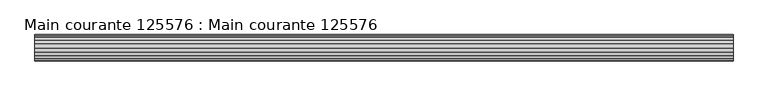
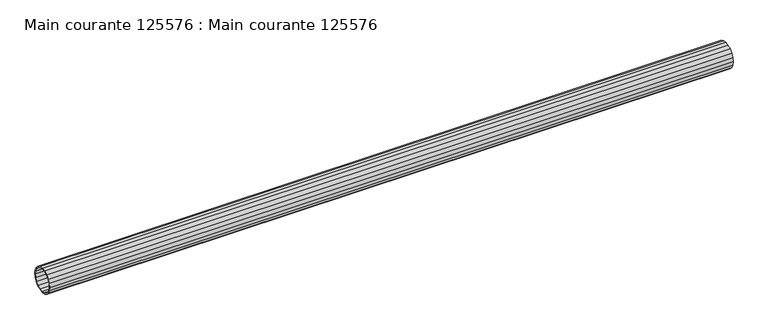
"""IFC4 building model written with IfcOpenShell, lengths in millimetres: beam geometry, Main courante 125576 : Main courante 125576."""

import ifcopenshell
import ifcopenshell.guid

model = None  # the IFC model being written
_history = None  # IfcOwnerHistory: only IFC2X3 demands one
_inside = {}  # id of a spatial element -> (the spatial element, [elements in it])
_under = {}  # id of a project, library or spatial element -> (it, [spatial elements below it])
_declared = {}  # id of a project -> (the project, [libraries it declares])
_typed = {}  # id of a type object -> (the type object, [elements of that type])
_made_of = {}  # id of a material, layer set ... -> (it, [elements and type objects made of it])


def new_model(schema):
    """Start an empty IFC model of exactly this schema.

    Asked for "IFC4X3", IfcOpenShell would pick the latest addendum, in which some entities
    have other attributes; the version numbers below select the first issue.
    IFC2X3 requires an IfcOwnerHistory on every rooted entity: one is made here for all.
    """
    global model, _history
    if schema == "IFC4X3":
        model = ifcopenshell.file(schema_version=(4, 3, 0, 0))
    else:
        model = ifcopenshell.file(schema=schema)
    _inside.clear()
    _under.clear()
    _declared.clear()
    _typed.clear()
    _made_of.clear()
    _history = None
    if model.schema == "IFC2X3":
        org = make("IfcOrganization", Name="unknown")
        user = make(
            "IfcPersonAndOrganization",
            ThePerson=make("IfcPerson", FamilyName="unknown"),
            TheOrganization=org,
        )
        app = make(
            "IfcApplication",
            ApplicationDeveloper=org,
            Version="unknown",
            ApplicationFullName="unknown",
            ApplicationIdentifier="unknown",
        )
        _history = make(
            "IfcOwnerHistory",
            OwningUser=user,
            OwningApplication=app,
            ChangeAction="ADDED",
            CreationDate=0,
        )
    return model


def make(cls, **values):
    """One entity of the class cls with the attributes given. An attribute that is None is left unset."""
    return model.create_entity(
        cls, **{name: value for name, value in values.items() if value is not None}
    )


def rooted(cls, **values):
    """An entity with a GlobalId (a new one), such as an element, a storey or a relation."""
    return make(cls, GlobalId=ifcopenshell.guid.new(), OwnerHistory=_history, **values)


def si_unit(unit_type, name, prefix=None):
    """IfcSIUnit, for example si_unit("LENGTHUNIT", "METRE", prefix="MILLI")."""
    return make("IfcSIUnit", UnitType=unit_type, Prefix=prefix, Name=name)


def assignment(units):
    """IfcUnitAssignment: the units of a project."""
    return None if units is None else make("IfcUnitAssignment", Units=units)


def point(xyz):
    """IfcCartesianPoint."""
    return None if xyz is None else make("IfcCartesianPoint", Coordinates=xyz)


def direction(xyz):
    """IfcDirection."""
    return None if xyz is None else make("IfcDirection", DirectionRatios=xyz)


def frame(location, z_axis=None, x_axis=None):
    """IfcAxis2Placement3D, a coordinate frame: its origin and axes. An axis left out is left unset."""
    return make(
        "IfcAxis2Placement3D",
        Location=point(location),
        Axis=direction(z_axis),
        RefDirection=direction(x_axis),
    )


def origin():
    """The frame at (0, 0, 0) with its axes left unset."""
    return frame((0.0, 0.0, 0.0))


def place(relative_to, where):
    """IfcLocalPlacement: puts the frame where relative to a parent placement (None: the world)."""
    return make(
        "IfcLocalPlacement", PlacementRelTo=relative_to, RelativePlacement=where
    )


def context(
    kind, dimensions, precision=None, world=None, true_north=None, identifier=None
):
    """IfcGeometricRepresentationContext, for example the 3D "Model" context."""
    return make(
        "IfcGeometricRepresentationContext",
        ContextIdentifier=identifier,
        ContextType=kind,
        CoordinateSpaceDimension=dimensions,
        Precision=precision,
        WorldCoordinateSystem=world,
        TrueNorth=true_north,
    )


def project(units=None, contexts=None):
    """IfcProject with its units and contexts."""
    return rooted(
        "IfcProject",
        Name="project",
        RepresentationContexts=contexts,
        UnitsInContext=assignment(units),
    )


def spatial(cls, under=None, at=None, **own):
    """A site, building, storey or space (cls), placed at a placement, below another one or the project."""
    s = rooted(cls, ObjectPlacement=at, **own)
    if under is not None:
        _under.setdefault(under.id(), (under, []))[1].append(s)
    return s


def polyline(points):
    """IfcPolyline through the points."""
    return make("IfcPolyline", Points=[point(p) for p in points])


def outline(outer, holes=None, kind="AREA"):
    """IfcArbitraryClosedProfileDef: a profile drawn as a closed curve; with holes, ...WithVoids."""
    if holes is None:
        return make("IfcArbitraryClosedProfileDef", ProfileType=kind, OuterCurve=outer)
    return make(
        "IfcArbitraryProfileDefWithVoids",
        ProfileType=kind,
        OuterCurve=outer,
        InnerCurves=holes,
    )


def extrude(swept, where, along, depth):
    """IfcExtrudedAreaSolid: the profile swept, set in the frame where, extruded along a direction by depth."""
    return make(
        "IfcExtrudedAreaSolid",
        SweptArea=swept,
        Position=where,
        ExtrudedDirection=direction(along),
        Depth=depth,
    )


def shape(context_of_items, identifier, shape_type, items):
    """IfcShapeRepresentation: the items that make up one representation, for example the "Body"."""
    return make(
        "IfcShapeRepresentation",
        ContextOfItems=context_of_items,
        RepresentationIdentifier=identifier,
        RepresentationType=shape_type,
        Items=items,
    )


def source(mapping_origin, context_of_items, identifier, shape_type, items):
    """IfcRepresentationMap: a shape defined once, which mapped items show again and again."""
    return make(
        "IfcRepresentationMap",
        MappingOrigin=mapping_origin,
        MappedRepresentation=shape(context_of_items, identifier, shape_type, items),
    )


def transform(
    local_origin,
    x_axis=None,
    y_axis=None,
    z_axis=None,
    scale=None,
    scale2=None,
    scale3=None,
    uniform=True,
):
    """IfcCartesianTransformationOperator3D, or its non-uniform kind. x_axis, y_axis, z_axis: its Axis1, 2, 3."""
    if uniform:
        return make(
            "IfcCartesianTransformationOperator3D",
            Axis1=direction(x_axis),
            Axis2=direction(y_axis),
            LocalOrigin=point(local_origin),
            Scale=scale,
            Axis3=direction(z_axis),
        )
    return make(
        "IfcCartesianTransformationOperator3DnonUniform",
        Axis1=direction(x_axis),
        Axis2=direction(y_axis),
        LocalOrigin=point(local_origin),
        Scale=scale,
        Axis3=direction(z_axis),
        Scale2=scale2,
        Scale3=scale3,
    )


def mapped(mapping_source, mapping_target):
    """IfcMappedItem: shows the shape of a source again, moved by a transform."""
    return make(
        "IfcMappedItem", MappingSource=mapping_source, MappingTarget=mapping_target
    )


def made_of(thing, what):
    """Note that an element or type object is made of a material, layer set ...; save() writes the relation."""
    if what is not None:
        _made_of.setdefault(what.id(), (what, []))[1].append(thing)
    return thing


def element(
    cls,
    number,
    at=None,
    inside=None,
    cuts=None,
    type_object=None,
    material=None,
    context=None,
    identifier="Body",
    shape_type=None,
    held_by="IfcProductDefinitionShape",
    body=None,
    shapes=None,
    **own,
):
    """One element of the class cls, such as IfcWall. Its Tag is "e" and its number.

    at: its placement. inside: the storey or other place that contains it. cuts: it is an
    opening in that element (IfcRelVoidsElement). A single representation is given by context,
    identifier, shape_type and body (its items); several are given by shapes. held_by: the class
    of the entity that holds the representations. save() writes the other relations.
    """
    e = rooted(cls, Tag="e%d" % number, ObjectPlacement=at, **own)
    if body is not None:
        shapes = [shape(context, identifier, shape_type, body)]
    if shapes is not None:
        e.Representation = make(held_by, Representations=shapes)
    if inside is not None:
        _inside.setdefault(inside.id(), (inside, []))[1].append(e)
    if cuts is not None:
        rooted(
            "IfcRelVoidsElement", RelatingBuildingElement=cuts, RelatedOpeningElement=e
        )
    if type_object is not None:
        _typed.setdefault(type_object.id(), (type_object, []))[1].append(e)
    return made_of(e, material)


def aggregate(whole, parts):
    """IfcRelAggregates: a whole, such as a stair, and the parts it consists of."""
    return rooted("IfcRelAggregates", RelatingObject=whole, RelatedObjects=parts)


def save(model, path):
    """Write the relations noted so far, then the file.

    IfcRelAggregates (storeys below a building ...), IfcRelContainedInSpatialStructure (elements
    in a storey), IfcRelDefinesByType, IfcRelAssociatesMaterial and IfcRelDeclares: one each for
    every whole, place, type object, material and project.
    """
    for whole, parts in _under.values():
        aggregate(whole, parts)
    for where, things in _inside.values():
        rooted(
            "IfcRelContainedInSpatialStructure",
            RelatedElements=things,
            RelatingStructure=where,
        )
    for kind, things in _typed.values():
        rooted("IfcRelDefinesByType", RelatedObjects=things, RelatingType=kind)
    for what, things in _made_of.values():
        rooted("IfcRelAssociatesMaterial", RelatedObjects=things, RelatingMaterial=what)
    for by, libraries in _declared.values():
        rooted("IfcRelDeclares", RelatingContext=by, RelatedDefinitions=libraries)
    model.write(path)


def main_courante_125576_main_courante_125576_99327f67(model_context):
    return source(origin(), model_context, "Body", "SweptSolid", [
        extrude(outline(polyline([(-14166.5, 8765.0), (-14165.3180149, 8772.4627604), (-14161.8877604, 8779.1950138), (-14156.5450138, 8784.5377604), (-14149.8127604, 8787.9680149), (-14142.35, 8789.15), (-14134.8872396, 8787.9680149), (-14128.1549862, 8784.5377604), (-14122.8122396, 8779.1950138), (-14119.3819851, 8772.4627604), (-14118.2, 8765.0), (-14119.3819851, 8757.5372396), (-14122.8122396, 8750.8049862), (-14128.1549862, 8745.4622396), (-14134.8872396, 8742.0319851), (-14142.35, 8740.85), (-14149.8127604, 8742.0319851), (-14156.5450138, 8745.4622396), (-14161.8877604, 8750.8049862), (-14165.3180149, 8757.5372396), (-14166.5, 8765.0)]), holes=[polyline([(-14120.7, 8765.0), (-14121.7596264, 8771.6902179), (-14124.8347821, 8777.7255507), (-14129.6244493, 8782.5152179), (-14135.6597821, 8785.5903736), (-14142.35, 8786.65), (-14149.0402179, 8785.5903736), (-14155.0755507, 8782.5152179), (-14159.8652179, 8777.7255507), (-14162.9403736, 8771.6902179), (-14164.0, 8765.0), (-14162.9403736, 8758.3097821), (-14159.8652179, 8752.2744493), (-14155.0755507, 8747.4847821), (-14149.0402179, 8744.4096264), (-14142.35, 8743.35), (-14135.6597821, 8744.4096264), (-14129.6244493, 8747.4847821), (-14124.8347821, 8752.2744493), (-14121.7596264, 8758.3097821), (-14120.7, 8765.0)])]), frame((12800.9999999, 0.0, 0.0), z_axis=(1.0, 0.0, 0.0), x_axis=(0.0, 1.0, 0.0)), (0.0, 0.0, 1.0), 1285.5),
    ])


if __name__ == "__main__":
    model = new_model("IFC4")
    model_context = context("Model", 3, world=origin())
    ifc_project = project(units=[si_unit("LENGTHUNIT", "METRE", prefix="MILLI")], contexts=[model_context])
    site = spatial("IfcSite", under=ifc_project)
    building = spatial("IfcBuilding", under=site)
    placement = place(None, origin())
    main_courante_125576_main_courante_125576_shape = main_courante_125576_main_courante_125576_99327f67(model_context)
    element("IfcBeam", 1, ObjectType="Main courante 125576 : Main courante 125576", at=placement, inside=building, context=model_context, shape_type="MappedRepresentation", body=[
        mapped(main_courante_125576_main_courante_125576_shape, transform((0.0, 0.0, 0.0), x_axis=(1.0, 0.0, 0.0), y_axis=(0.0, 1.0, 0.0), z_axis=(0.0, 0.0, 1.0))),
    ])
    save(model, "model.ifc")
